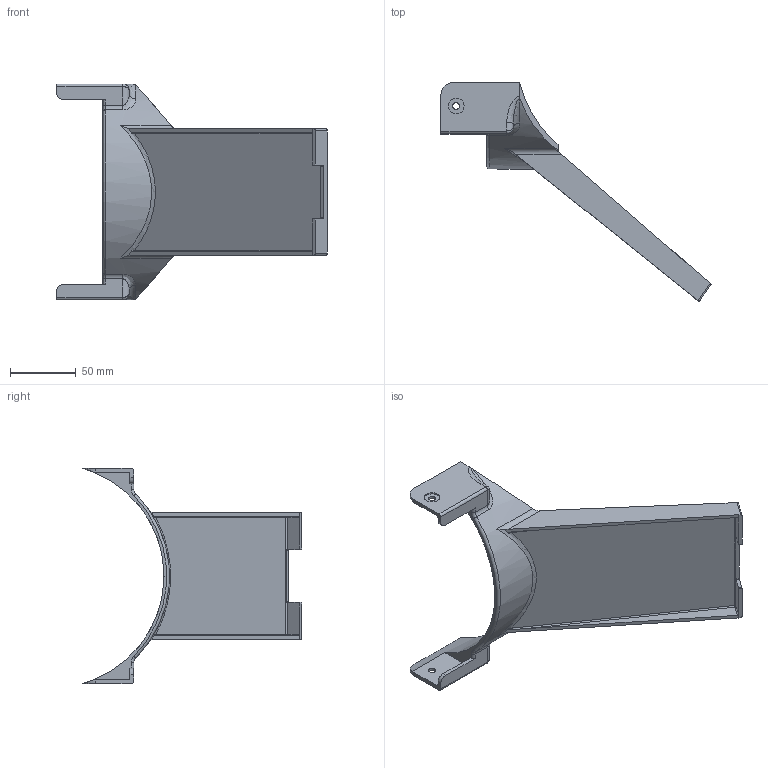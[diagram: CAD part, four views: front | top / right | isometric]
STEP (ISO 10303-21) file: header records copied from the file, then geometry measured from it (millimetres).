
FILE_DESCRIPTION (( 'STEP AP203' ), '1' );
FILE_NAME ('TTS160PL-PH Phone holder.STEP', '2026-09-25T08:19:57', ( '' ), ( '' ), 'SwSTEP 2.0', 'SolidWorks 2015', '' );
FILE_SCHEMA (( 'CONFIG_CONTROL_DESIGN' ));
Length unit declared in the file: millimetre
Products named in the file (1): TTS160PL-PH Phone holder
Bounding box: 205.29 x 166.46 x 164 mm (x, y, z)
Volume: 132825.9 mm3; surface area: 72757.8 mm2
Topology: 1 solids, 1 shells, 106 faces, 270 edges, 166 vertices
Faces by surface type: cylinder 44, plane 44, bspline 9, torus 5, sphere 4
Entity records: 3925 total; most frequent: CARTESIAN_POINT 1381, ORIENTED_EDGE 536, DIRECTION 504, EDGE_CURVE 268, AXIS2_PLACEMENT_3D 185, VERTEX_POINT 166, VECTOR 134, LINE 134
